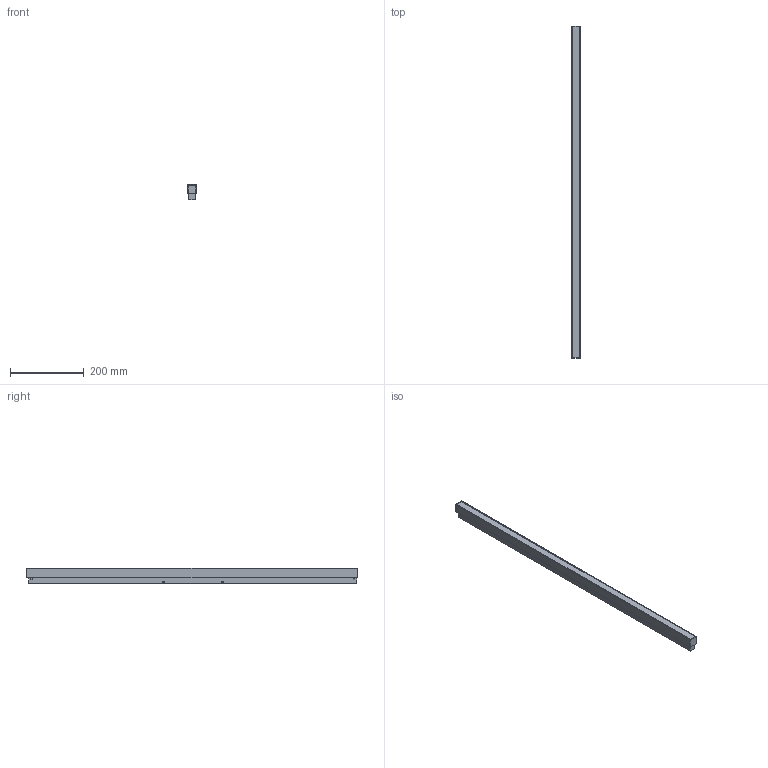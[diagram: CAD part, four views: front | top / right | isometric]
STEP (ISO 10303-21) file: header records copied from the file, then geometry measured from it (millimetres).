
FILE_DESCRIPTION(/* description */ (''),/* implementation_level */ '2;1');
FILE_NAME(/* name */ 'KL-T10~1',/* time_stamp */ '2026-07-04T09:24:08+08:00',/* author */ (''),/* organization */ (''),/* preprocessor_version */ 'ST-DEVELOPER v16.5',/* originating_system */ '',/* authorisation */ '');
FILE_SCHEMA (('CONFIG_CONTROL_DESIGN'));
Length unit declared in the file: millimetre
Products named in the file (1): Document
Bounding box: 23 x 900 x 41 mm (x, y, z)
Volume: 327314.3 mm3; surface area: 233344.7 mm2
Topology: 9 solids, 9 shells, 86 faces, 192 edges, 128 vertices
Faces by surface type: plane 78, cylinder 8
Entity records: 2128 total; most frequent: CARTESIAN_POINT 616, ORIENTED_EDGE 384, EDGE_CURVE 192, B_SPLINE_CURVE_WITH_KNOTS 176, VERTEX_POINT 128, EDGE_LOOP 90, DIRECTION 90, AXIS2_PLACEMENT_3D 88
